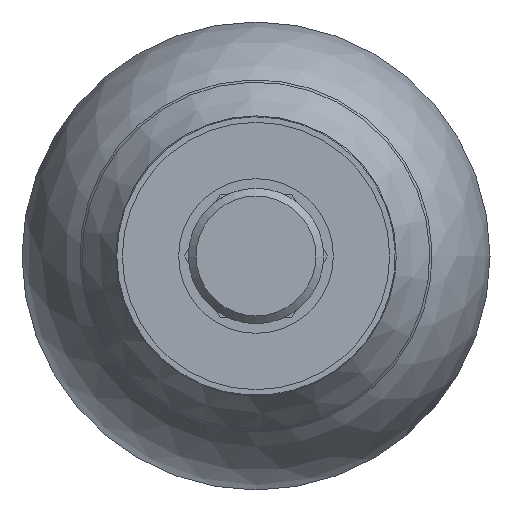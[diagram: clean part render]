
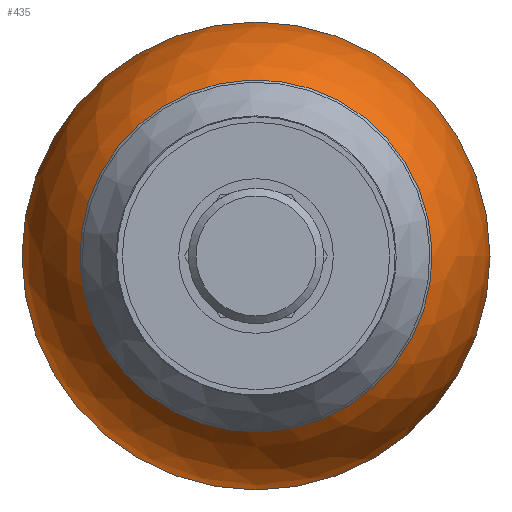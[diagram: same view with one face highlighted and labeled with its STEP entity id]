
A CAD part, left-side view. The second image highlights one B-rep face of the part: STEP entity #435.
In plain terms, the highlighted spherical face has radius 60.5 mm.
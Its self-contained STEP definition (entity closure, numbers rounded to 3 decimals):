
#325=CARTESIAN_POINT('',(-140.659,-57.5,0.));
#326=VERTEX_POINT('',#325);
#327=CARTESIAN_POINT('',(-140.659,3.,0.0));
#328=DIRECTION('',(1.0,0.0,0.0));
#329=DIRECTION('',(0.0,1.0,0.0));
#330=AXIS2_PLACEMENT_3D('',#327,#328,#329);
#331=CIRCLE('',#330,60.5);
#332=EDGE_CURVE('',#326,#326,#331,.T.);
#409=CARTESIAN_POINT('',(-197.757,23.,0.0));
#410=VERTEX_POINT('',#409);
#411=CARTESIAN_POINT('',(-197.757,3.,0.0));
#412=DIRECTION('',(1.0,0.0,0.0));
#413=DIRECTION('',(0.0,1.0,0.0));
#414=AXIS2_PLACEMENT_3D('',#411,#412,#413);
#415=CIRCLE('',#414,20.0);
#416=EDGE_CURVE('',#410,#410,#415,.T.);
#424=CARTESIAN_POINT('',(-140.659,3.,0.0));
#425=DIRECTION('',(1.0,0.0,0.0));
#426=DIRECTION('',(0.0,-1.0,0.0));
#427=AXIS2_PLACEMENT_3D('',#424,#425,#426);
#428=SPHERICAL_SURFACE('',#427,60.5);
#429=ORIENTED_EDGE('',*,*,#332,.F.);
#430=EDGE_LOOP('',(#429));
#431=FACE_OUTER_BOUND('',#430,.T.);
#432=ORIENTED_EDGE('',*,*,#416,.T.);
#433=EDGE_LOOP('',(#432));
#434=FACE_BOUND('',#433,.T.);
#435=ADVANCED_FACE('',(#431,#434),#428,.T.);
